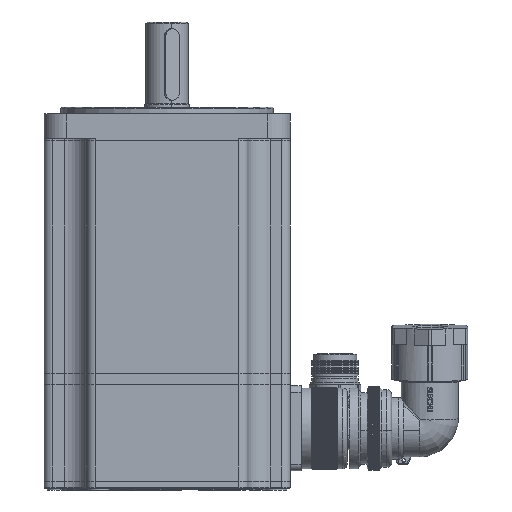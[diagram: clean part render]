
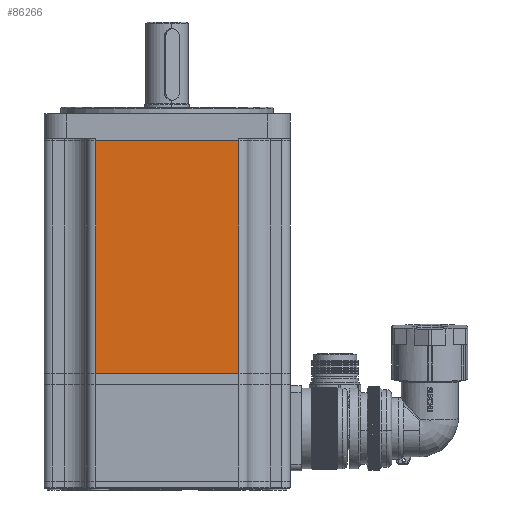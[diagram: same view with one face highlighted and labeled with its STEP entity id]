
A CAD part, front view. The second image highlights one B-rep face of the part: STEP entity #86266.
In plain terms, the highlighted planar face has unit normal (0, -1, 0).
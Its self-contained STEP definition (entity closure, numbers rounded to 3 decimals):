
#7046 = DIRECTION ( 'NONE',  ( 1., 0., 0. ) ) ;
#7047 = VECTOR ( 'NONE', #7046, 1000. ) ;
#7048 = CARTESIAN_POINT ( 'NONE',  ( -35.843, -52.134, -44.073 ) ) ;
#7049 = LINE ( 'NONE', #7048, #7047 ) ;
#7059 = CARTESIAN_POINT ( 'NONE',  ( 42.157, -52.134, -44.073 ) ) ;
#7060 = DIRECTION ( 'NONE',  ( 0., 0., -1. ) ) ;
#7061 = VECTOR ( 'NONE', #7060, 1000. ) ;
#7062 = CARTESIAN_POINT ( 'NONE',  ( 42.157, -52.134, 59.927 ) ) ;
#7063 = LINE ( 'NONE', #7062, #7061 ) ;
#7070 = CARTESIAN_POINT ( 'NONE',  ( 42.157, -52.134, 59.927 ) ) ;
#7112 = DIRECTION ( 'NONE',  ( -1., 0., 0. ) ) ;
#7113 = DIRECTION ( 'NONE',  ( 0., 1., 0. ) ) ;
#7114 = CARTESIAN_POINT ( 'NONE',  ( -21.843, -52.134, 59.927 ) ) ;
#7115 = AXIS2_PLACEMENT_3D ( 'NONE', #7114, #7113, #7112 ) ;
#7116 = PLANE ( 'NONE',  #7115 ) ;
#7117 = FACE_OUTER_BOUND ( 'NONE', #86274, .T. ) ;
#7120 = DIRECTION ( 'NONE',  ( 1., 0., 0. ) ) ;
#7121 = VECTOR ( 'NONE', #7120, 1000. ) ;
#7122 = CARTESIAN_POINT ( 'NONE',  ( -35.843, -52.134, 59.927 ) ) ;
#7123 = LINE ( 'NONE', #7122, #7121 ) ;
#7173 = CARTESIAN_POINT ( 'NONE',  ( -21.843, -52.134, -44.073 ) ) ;
#7174 = DIRECTION ( 'NONE',  ( 0., 0., 1. ) ) ;
#7175 = VECTOR ( 'NONE', #7174, 1000. ) ;
#7176 = CARTESIAN_POINT ( 'NONE',  ( -21.843, -52.134, 59.927 ) ) ;
#7177 = LINE ( 'NONE', #7176, #7175 ) ;
#7178 = CARTESIAN_POINT ( 'NONE',  ( -21.843, -52.134, 59.927 ) ) ;
#86140 = ORIENTED_EDGE ( 'NONE', *, *, #86252, .F. ) ;
#86210 = EDGE_CURVE ( 'NONE', #86340, #86256, #7049, .T. ) ;
#86244 = VERTEX_POINT ( 'NONE', #7070 ) ;
#86252 = EDGE_CURVE ( 'NONE', #86244, #86256, #7063, .T. ) ;
#86256 = VERTEX_POINT ( 'NONE', #7059 ) ;
#86266 = ADVANCED_FACE ( 'NONE', ( #7117 ), #7116, .F. ) ;
#86274 = EDGE_LOOP ( 'NONE', ( #86140, #86327, #86337, #86344 ) ) ;
#86327 = ORIENTED_EDGE ( 'NONE', *, *, #86330, .F. ) ;
#86330 = EDGE_CURVE ( 'NONE', #86334, #86244, #7123, .T. ) ;
#86334 = VERTEX_POINT ( 'NONE', #7178 ) ;
#86337 = ORIENTED_EDGE ( 'NONE', *, *, #86339, .F. ) ;
#86339 = EDGE_CURVE ( 'NONE', #86340, #86334, #7177, .T. ) ;
#86340 = VERTEX_POINT ( 'NONE', #7173 ) ;
#86344 = ORIENTED_EDGE ( 'NONE', *, *, #86210, .T. ) ;
